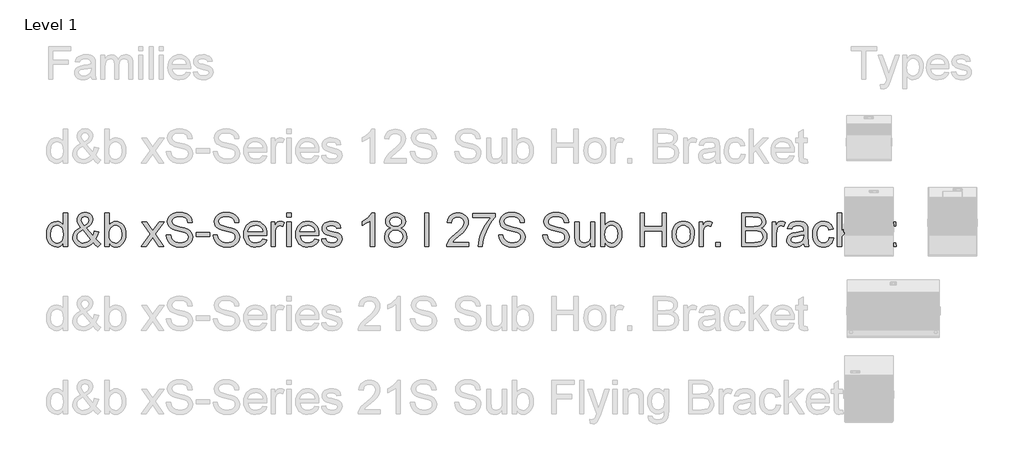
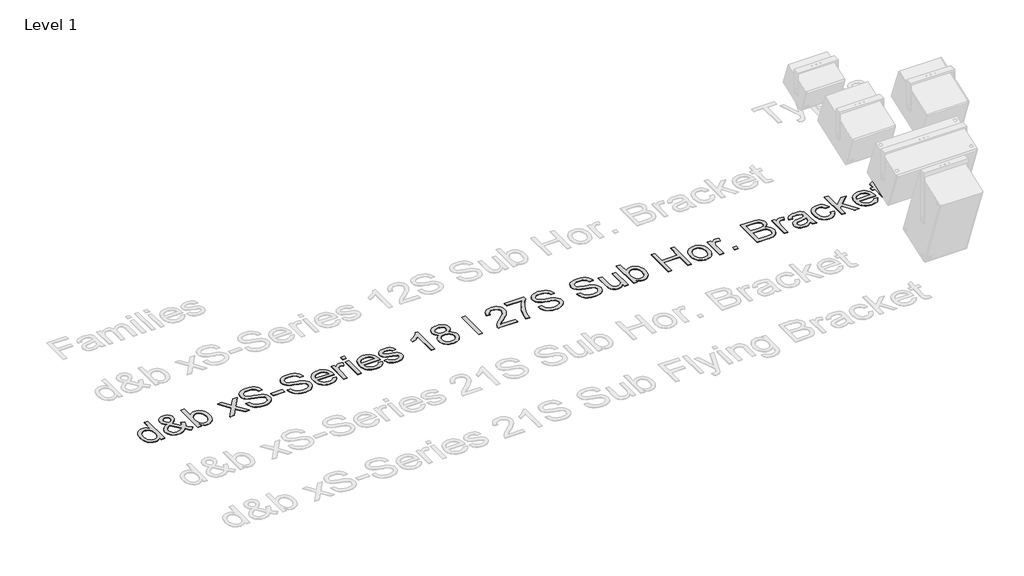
# One storey, part 15 of 55: 1 proxy.
"""IFC4 building model written with IfcOpenShell, lengths in millimetres."""

from ifc_helpers import new_model, si_unit, origin, origin_with_axes, place, context, project, spatial, polyline, outline, extrude, element, save

model = new_model("IFC4")

# Units and contexts
model_context = context("Model", 3, world=origin())
ifc_project = project(units=[si_unit("LENGTHUNIT", "METRE", prefix="MILLI")], contexts=[model_context])

# Site, building, storey
site = spatial("IfcSite", under=ifc_project)
building = spatial("IfcBuilding", under=site)
storey = spatial("IfcBuildingStorey", under=building, Name="Level 1", Elevation=0.0)

# Proxy
placement = place(None, origin())
element("IfcBuildingElementProxy", 1, Name="400mm Arial", ObjectType="400mm Arial", at=placement, inside=storey, context=model_context, shape_type="SweptSolid", body=[
    extrude(outline(polyline([(-20879.8211974, -21648.6945164), (-20879.8211974, -21601.3113154), (-20894.8491769, -21624.7883181), (-20913.0532043, -21641.5576057), (-20934.4332796, -21651.6191783), (-20958.9894028, -21654.9730358), (-20991.4611202, -21650.1169935), (-21021.1859854, -21635.5488665), (-21046.3491139, -21612.2864616), (-21065.1356211, -21581.3475858), (-21076.8342686, -21543.9830379), (-21080.7338177, -21501.4436165), (-21077.1408369, -21459.4314926), (-21066.3618945, -21421.4905962), (-21048.4092531, -21389.7791682), (-21023.2951755, -21366.4554497), (-20992.9203855, -21352.1080519), (-20959.1856065, -21347.325586), (-20934.6110892, -21350.7468885), (-20912.8815261, -21361.0107962), (-20894.4629008, -21376.7438829), (-20879.8211974, -21396.5727224), (-20879.8211974, -21246.8692758), (-20829.5930424, -21246.8692758), (-20829.5930424, -21648.6945164), (-20879.8211974, -21648.6945164)]), holes=[polyline([(-21030.5056627, -21501.2474128), (-21029.089317, -21525.6042665), (-21024.8402799, -21546.6808392), (-21017.7585515, -21564.4771307), (-21007.8441318, -21578.9931411), (-20983.1469871, -21598.3069458), (-20969.2717046, -21603.135397), (-20954.3786151, -21604.7448807), (-20939.415015, -21603.2089734), (-20925.6225058, -21598.6012514), (-20901.5507606, -21580.1703635), (-20892.0440767, -21566.2613584), (-20885.2535882, -21549.1088603), (-20879.8211974, -21505.0733855), (-20885.3516901, -21456.9298951), (-20892.2648059, -21438.3947739), (-20901.9431681, -21423.5507354), (-20913.6448812, -21412.1770504), (-20926.6280499, -21404.0529896), (-20940.8926743, -21399.1785532), (-20956.4387543, -21397.5537411), (-20971.6261493, -21399.1141738), (-20985.5014319, -21403.7954722), (-20998.064602, -21411.5976362), (-21009.3156597, -21422.5206658), (-21018.586286, -21436.8036843), (-21025.2081619, -21454.6858149), (-21030.5056627, -21501.2474128)])]), origin_with_axes(), (0.0, 0.0, 1.0), 5.0),
    extrude(outline(polyline([(-20523.809528, -21599.0549725), (-20549.3405384, -21623.5191252), (-20577.0788409, -21640.99352), (-20607.0734862, -21651.4781569), (-20639.3735254, -21654.9730358), (-20668.6814577, -21652.3855991), (-20694.8010793, -21644.623289), (-20717.7323904, -21631.6861055), (-20737.4753908, -21613.5740486), (-20750.308341, -21596.2038871), (-20759.4747341, -21577.8404442), (-20764.9745699, -21558.4837198), (-20766.8078485, -21538.1337141), (-20760.9094739, -21502.9396699), (-20743.2143499, -21471.3263438), (-20713.796053, -21443.3182613), (-20672.7281596, -21418.9399477), (-20694.6416638, -21390.5885086), (-20707.7995765, -21368.1231814), (-20714.3846642, -21348.9442668), (-20716.5796934, -21330.4520651), (-20714.8506481, -21312.8979626), (-20709.6635119, -21296.5333452), (-20701.018285, -21281.3582129), (-20688.9149674, -21267.3725657), (-20674.1935562, -21255.6555241), (-20657.6940487, -21247.2862088), (-20639.4164449, -21242.2646195), (-20619.3607448, -21240.5907564), (-20600.212487, -21242.1910431), (-20582.8913764, -21246.9919032), (-20567.397413, -21254.9933366), (-20553.7305969, -21266.1953433), (-20542.5715097, -21279.6414302), (-20534.6007332, -21294.3751041), (-20529.8182672, -21310.396365), (-20528.2241119, -21327.7052129), (-20532.9452642, -21355.68877), (-20547.108721, -21381.563137), (-20570.7144823, -21405.3283139), (-20603.7625482, -21426.9843007), (-20531.069066, -21517.5323224), (-20518.6837055, -21491.6579554), (-20509.3885538, -21461.9085647), (-20459.1603987, -21472.7978718), (-20474.6114425, -21519.3226815), (-20494.6732739, -21555.4977443), (-20466.1256311, -21588.8033276), (-20434.0463211, -21616.3209009), (-20471.7174374, -21654.9730358), (-20497.3465498, -21631.52669), (-20523.809528, -21599.0549725)]), holes=[polyline([(-20557.4584678, -21562.8553842), (-20647.1235727, -21450.9211558), (-20681.3733865, -21472.7733463), (-20702.305872, -21493.0068561), (-20713.0112381, -21512.3329235), (-20716.5796934, -21531.4627873), (-20711.6991256, -21555.1543878), (-20697.0574222, -21579.7289051), (-20686.2784798, -21590.6733944), (-20673.4639236, -21598.4908868), (-20658.6137537, -21603.1813823), (-20641.7279702, -21604.7448807), (-20619.0051256, -21601.8263502), (-20595.5710425, -21593.0707588), (-20574.1480476, -21579.6798541), (-20557.4584678, -21562.8553842)]), polyline([(-20629.1709314, -21395.2973981), (-20602.9041569, -21378.6323438), (-20587.8700461, -21364.1500559), (-20580.8067117, -21350.0601755), (-20578.452267, -21334.5723435), (-20581.5547385, -21317.0243723), (-20590.862153, -21303.0325938), (-20604.829406, -21293.8723321), (-20621.9113933, -21290.8189115), (-20639.3612626, -21293.8478066), (-20653.6473468, -21302.9344919), (-20663.1754905, -21316.3867102), (-20666.3515384, -21332.5122043), (-20662.0350563, -21350.9063041), (-20648.9875082, -21371.360543), (-20629.1709314, -21395.2973981)])]), origin_with_axes(), (0.0, 0.0, 1.0), 5.0),
    extrude(outline(polyline([(-20333.590011, -21648.6945164), (-20383.8181661, -21648.6945164), (-20383.8181661, -21246.8692758), (-20333.590011, -21246.8692758), (-20333.590011, -21395.8860093), (-20317.0721094, -21374.6408241), (-20298.4204923, -21359.4656918), (-20277.6351595, -21350.3606124), (-20254.7161112, -21347.325586), (-20228.8417442, -21350.0601755), (-20204.3898543, -21358.263944), (-20182.758393, -21371.4218567), (-20165.3453119, -21389.0188788), (-20151.6968898, -21410.883332), (-20141.3594058, -21436.8435381), (-20134.8478945, -21465.8203766), (-20132.6773907, -21496.734727), (-20134.9245365, -21532.4070178), (-20141.6659741, -21563.7873519), (-20152.9017034, -21590.8757295), (-20168.6317244, -21613.6721505), (-20187.5132678, -21631.7412878), (-20208.2035643, -21644.6478145), (-20230.702614, -21652.3917305), (-20255.0104168, -21654.9730358), (-20278.6836232, -21651.6437038), (-20299.671291, -21641.6557076), (-20317.9734203, -21625.0090473), (-20333.590011, -21601.7037229), (-20333.590011, -21648.6945164)]), holes=[polyline([(-20333.590011, -21499.0891717), (-20330.1564457, -21540.9786682), (-20319.8557498, -21569.3301073), (-20307.6849872, -21584.8240707), (-20293.5399244, -21595.8911874), (-20277.4205617, -21602.5314574), (-20259.3268989, -21604.7448807), (-20244.3050508, -21603.1139372), (-20230.3377977, -21598.2211067), (-20217.4251396, -21590.0663891), (-20205.5670767, -21578.6497845), (-20195.6526569, -21564.0019498), (-20188.5709285, -21546.1535416), (-20184.3218914, -21525.1045601), (-20182.9055458, -21500.8550053), (-20188.3379366, -21454.8942814), (-20195.1284251, -21437.1010555), (-20204.6351089, -21422.7659205), (-20216.0670419, -21411.735592), (-20228.6332778, -21403.8567859), (-20242.3338164, -21399.1295023), (-20257.1686579, -21397.5537411), (-20272.190506, -21399.1846846), (-20286.1577591, -21404.0775151), (-20299.0704171, -21412.2322327), (-20310.9284801, -21423.6488372), (-20320.8428999, -21438.1495192), (-20327.9246283, -21455.556469), (-20332.1736653, -21475.8696865), (-20333.590011, -21499.0891717)])]), origin_with_axes(), (0.0, 0.0, 1.0), 5.0),
    extrude(outline(polyline([(-19950.6003285, -21648.6945164), (-19843.2768878, -21500.2663941), (-19944.3218092, -21353.6041054), (-19884.0872638, -21353.6041054), (-19835.3306367, -21424.3355503), (-19812.4729021, -21457.5920827), (-19792.6563253, -21430.3197641), (-19737.1306695, -21353.6041054), (-19676.6999204, -21353.6041054), (-19782.8461387, -21500.364496), (-19680.623995, -21648.6945164), (-19740.9566422, -21648.6945164), (-19802.5646137, -21559.4218189), (-19813.7482263, -21543.0388074), (-19890.1695795, -21648.6945164), (-19950.6003285, -21648.6945164)])), origin_with_axes(), (0.0, 0.0, 1.0), 5.0),
    extrude(outline(polyline([(-19649.2313981, -21510.56709), (-19599.003243, -21510.56709), (-19593.2397584, -21538.4402825), (-19582.8164352, -21560.844296), (-19566.556051, -21578.6252591), (-19543.2813835, -21592.6293004), (-19514.8318425, -21601.7159856), (-19483.0468381, -21604.7448807), (-19455.063281, -21602.4517496), (-19430.5623402, -21595.5723563), (-19410.7089752, -21584.6830493), (-19396.6681457, -21570.3601769), (-19388.3172244, -21553.9158517), (-19385.533584, -21536.6621862), (-19387.6182486, -21519.849979), (-19393.8722425, -21505.3186402), (-19406.5764341, -21492.9210169), (-19428.0116917, -21482.5099565), (-19501.1466323, -21463.3310418), (-19549.1552327, -21450.639113), (-19579.8733793, -21438.5603208), (-19604.8770922, -21421.6622745), (-19622.5967416, -21401.1835101), (-19633.1549549, -21377.565486), (-19636.6743593, -21351.2496606), (-19632.3210891, -21321.8313637), (-19619.2612782, -21294.3996296), (-19597.8382834, -21271.1494875), (-19568.395461, -21254.2759667), (-19533.054264, -21244.012059), (-19493.9361452, -21240.5907564), (-19451.5561394, -21244.1714745), (-19414.4736342, -21254.9136288), (-19384.013005, -21272.59649), (-19361.4986269, -21296.999329), (-19347.249331, -21326.6015669), (-19341.5839483, -21359.8826247), (-19391.8121033, -21359.8826247), (-19401.0336787, -21329.9125049), (-19409.3968627, -21318.0544419), (-19420.2616443, -21308.2810436), (-19450.3053406, -21295.1844445), (-19491.9741079, -21290.8189115), (-19534.6238939, -21295.1353936), (-19550.9271976, -21300.5309962), (-19563.8827752, -21308.0848398), (-19580.805347, -21327.1411272), (-19586.4462043, -21349.7781326), (-19582.4485532, -21369.0796746), (-19570.4556002, -21384.6042948), (-19542.1041611, -21398.4857088), (-19488.4424407, -21412.6614283), (-19433.0639377, -21426.1259093), (-19399.5621507, -21437.8736077), (-19370.9286687, -21456.0960292), (-19350.9526764, -21478.5858819), (-19339.2172408, -21505.097911), (-19335.3054289, -21535.3868619), (-19339.805852, -21566.3502632), (-19353.3071212, -21595.4742545), (-19375.2574136, -21620.5392811), (-19405.1049061, -21639.3257883), (-19440.9979261, -21651.0612239), (-19481.0848008, -21654.9730358), (-19530.2951491, -21650.7546556), (-19570.7989567, -21638.099515), (-19603.0622077, -21616.958563), (-19627.5508858, -21587.2827487), (-19643.2717098, -21551.1322113), (-19649.2313981, -21510.56709)])), origin_with_axes(), (0.0, 0.0, 1.0), 5.0),
    extrude(outline(polyline([(-19291.3557932, -21529.4026481), (-19291.3557932, -21479.174493), (-19134.3928086, -21479.174493), (-19134.3928086, -21529.4026481), (-19291.3557932, -21529.4026481)])), origin_with_axes(), (0.0, 0.0, 1.0), 5.0),
    extrude(outline(polyline([(-19090.4431729, -21510.56709), (-19040.2150178, -21510.56709), (-19034.4515332, -21538.4402825), (-19024.02821, -21560.844296), (-19007.7678258, -21578.6252591), (-18984.4931583, -21592.6293004), (-18956.0436173, -21601.7159856), (-18924.2586129, -21604.7448807), (-18896.2750558, -21602.4517496), (-18871.774115, -21595.5723563), (-18851.9207499, -21584.6830493), (-18837.8799205, -21570.3601769), (-18829.5289992, -21553.9158517), (-18826.7453587, -21536.6621862), (-18828.8300234, -21519.849979), (-18835.0840173, -21505.3186402), (-18847.7882089, -21492.9210169), (-18869.2234665, -21482.5099565), (-18942.3584071, -21463.3310418), (-18990.3670075, -21450.639113), (-19021.0851541, -21438.5603208), (-19046.088867, -21421.6622745), (-19063.8085164, -21401.1835101), (-19074.3667297, -21377.565486), (-19077.8861341, -21351.2496606), (-19073.5328638, -21321.8313637), (-19060.473053, -21294.3996296), (-19039.0500582, -21271.1494875), (-19009.6072358, -21254.2759667), (-18974.2660388, -21244.012059), (-18935.14792, -21240.5907564), (-18892.7679141, -21244.1714745), (-18855.685409, -21254.9136288), (-18825.2247798, -21272.59649), (-18802.7104017, -21296.999329), (-18788.4611058, -21326.6015669), (-18782.7957231, -21359.8826247), (-18833.0238781, -21359.8826247), (-18842.2454535, -21329.9125049), (-18850.6086375, -21318.0544419), (-18861.4734191, -21308.2810436), (-18891.5171154, -21295.1844445), (-18933.1858827, -21290.8189115), (-18975.8356687, -21295.1353936), (-18992.1389724, -21300.5309962), (-19005.09455, -21308.0848398), (-19022.0171218, -21327.1411272), (-19027.657979, -21349.7781326), (-19023.660328, -21369.0796746), (-19011.667375, -21384.6042948), (-18983.3159359, -21398.4857088), (-18929.6542155, -21412.6614283), (-18874.2757125, -21426.1259093), (-18840.7739255, -21437.8736077), (-18812.1404435, -21456.0960292), (-18792.1644512, -21478.5858819), (-18780.4290156, -21505.097911), (-18776.5172037, -21535.3868619), (-18781.0176267, -21566.3502632), (-18794.518896, -21595.4742545), (-18816.4691883, -21620.5392811), (-18846.3166809, -21639.3257883), (-18882.2097009, -21651.0612239), (-18922.2965756, -21654.9730358), (-18971.5069238, -21650.7546556), (-19012.0107315, -21638.099515), (-19044.2739825, -21616.958563), (-19068.7626606, -21587.2827487), (-19084.4834846, -21551.1322113), (-19090.4431729, -21510.56709)])), origin_with_axes(), (0.0, 0.0, 1.0), 5.0),
    extrude(outline(polyline([(-18500.850962, -21560.795245), (-18451.6038255, -21567.0737644), (-18459.1546035, -21586.7983707), (-18469.3480004, -21604.180795), (-18482.1840164, -21619.2210372), (-18497.6626513, -21631.9190974), (-18515.6244897, -21642.0051955), (-18535.9101161, -21649.2095512), (-18583.4527326, -21654.9730358), (-18614.618469, -21652.4867667), (-18642.3874282, -21645.0279592), (-18666.7596104, -21632.5966135), (-18687.7350155, -21615.1927294), (-18704.602405, -21593.300685), (-18716.6505403, -21567.4048582), (-18723.8794215, -21537.5052491), (-18726.2890486, -21503.6018575), (-18723.8548961, -21468.5488348), (-18716.5524385, -21437.6528785), (-18704.3816758, -21410.9139888), (-18687.342608, -21388.3321657), (-18666.4223852, -21370.3917871), (-18642.6081574, -21357.5772309), (-18615.8999246, -21349.8884972), (-18586.2976867, -21347.325586), (-18557.6488763, -21349.8823658), (-18531.7407868, -21357.5527054), (-18508.5734182, -21370.3366048), (-18488.1467704, -21388.2340638), (-18471.472519, -21410.766836), (-18459.5623394, -21437.4566748), (-18452.4162316, -21468.3035801), (-18450.0341957, -21503.3075519), (-18450.3285013, -21516.8456094), (-18676.0608935, -21516.8456094), (-18673.1515601, -21536.8890467), (-18667.3666157, -21554.4431493), (-18658.7060604, -21569.507917), (-18647.1698942, -21582.0833498), (-18633.3957791, -21591.9977696), (-18618.0213774, -21599.079498), (-18582.4717139, -21604.7448807), (-18555.7389556, -21602.1206558), (-18533.2245775, -21594.2479811), (-18514.9285796, -21580.6363473), (-18500.850962, -21560.795245)]), holes=[polyline([(-18676.0608935, -21466.6174543), (-18500.2623508, -21466.6174543), (-18507.0559049, -21440.0808997), (-18520.3732332, -21421.0981887), (-18534.0707061, -21410.7974929), (-18549.65664, -21403.439853), (-18567.1310348, -21399.025269), (-18586.4938904, -21397.5537411), (-18620.3512967, -21402.2503679), (-18648.3471166, -21416.3402483), (-18667.8080741, -21438.3028034), (-18676.0608935, -21466.6174543)])]), origin_with_axes(), (0.0, 0.0, 1.0), 5.0),
    extrude(outline(polyline([(-18399.8060406, -21648.6945164), (-18399.8060406, -21353.6041054), (-18355.8564049, -21353.6041054), (-18355.8564049, -21397.2594355), (-18339.6205462, -21371.9491542), (-18324.6600117, -21357.0376707), (-18309.6504263, -21349.7536071), (-18293.2674148, -21347.325586), (-18268.2514391, -21351.2006097), (-18242.843056, -21362.8256807), (-18259.618475, -21407.8544369), (-18277.2768108, -21400.128915), (-18294.9351465, -21397.5537411), (-18309.9324692, -21400.0308132), (-18323.3356365, -21407.4620295), (-18334.1636299, -21419.2833042), (-18341.4354307, -21434.9305518), (-18347.5422718, -21462.9876853), (-18349.5778855, -21493.5954673), (-18349.5778855, -21648.6945164), (-18399.8060406, -21648.6945164)])), origin_with_axes(), (0.0, 0.0, 1.0), 5.0),
    extrude(outline(polyline([(-18211.4504591, -21297.0974309), (-18211.4504591, -21246.8692758), (-18161.222304, -21246.8692758), (-18161.222304, -21297.0974309), (-18211.4504591, -21297.0974309)])), origin_with_axes(), (0.0, 0.0, 1.0), 5.0),
    extrude(outline(polyline([(-18211.4504591, -21648.6945164), (-18211.4504591, -21353.6041054), (-18161.222304, -21353.6041054), (-18161.222304, -21648.6945164), (-18211.4504591, -21648.6945164)])), origin_with_axes(), (0.0, 0.0, 1.0), 5.0),
    extrude(outline(polyline([(-17879.2775429, -21560.795245), (-17830.0304065, -21567.0737644), (-17837.5811844, -21586.7983707), (-17847.7745814, -21604.180795), (-17860.6105973, -21619.2210372), (-17876.0892323, -21631.9190974), (-17894.0510707, -21642.0051955), (-17914.336697, -21649.2095512), (-17961.8793136, -21654.9730358), (-17993.0450499, -21652.4867667), (-18020.8140092, -21645.0279592), (-18045.1861914, -21632.5966135), (-18066.1615965, -21615.1927294), (-18083.0289859, -21593.300685), (-18095.0771213, -21567.4048582), (-18102.3060025, -21537.5052491), (-18104.7156295, -21503.6018575), (-18102.281477, -21468.5488348), (-18094.9790194, -21437.6528785), (-18082.8082567, -21410.9139888), (-18065.769189, -21388.3321657), (-18044.8489662, -21370.3917871), (-18021.0347384, -21357.5772309), (-17994.3265055, -21349.8884972), (-17964.7242676, -21347.325586), (-17936.0754573, -21349.8823658), (-17910.1673678, -21357.5527054), (-17886.9999991, -21370.3366048), (-17866.5733513, -21388.2340638), (-17849.8990999, -21410.766836), (-17837.9889203, -21437.4566748), (-17830.8428126, -21468.3035801), (-17828.4607766, -21503.3075519), (-17828.7550822, -21516.8456094), (-18054.4874745, -21516.8456094), (-18051.578141, -21536.8890467), (-18045.7931967, -21554.4431493), (-18037.1326413, -21569.507917), (-18025.5964751, -21582.0833498), (-18011.8223601, -21591.9977696), (-17996.4479584, -21599.079498), (-17960.8982949, -21604.7448807), (-17934.1655366, -21602.1206558), (-17911.6511585, -21594.2479811), (-17893.3551606, -21580.6363473), (-17879.2775429, -21560.795245)]), holes=[polyline([(-18054.4874745, -21466.6174543), (-17878.6889317, -21466.6174543), (-17885.4824859, -21440.0808997), (-17898.7998141, -21421.0981887), (-17912.4972871, -21410.7974929), (-17928.0832209, -21403.439853), (-17945.5576157, -21399.025269), (-17964.9204714, -21397.5537411), (-17998.7778777, -21402.2503679), (-18026.7736975, -21416.3402483), (-18046.234655, -21438.3028034), (-18054.4874745, -21466.6174543)])]), origin_with_axes(), (0.0, 0.0, 1.0), 5.0),
    extrude(outline(polyline([(-17797.0681797, -21560.795245), (-17746.8400246, -21554.5167257), (-17738.918299, -21576.0010342), (-17723.5898825, -21591.7954345), (-17700.7566734, -21601.5075192), (-17670.3205696, -21604.7448807), (-17640.2523479, -21601.7772993), (-17619.1113959, -21592.874555), (-17606.6034081, -21579.9741597), (-17602.4340788, -21565.0136253), (-17606.6279335, -21552.2113318), (-17619.2094978, -21542.4501962), (-17670.9091808, -21528.1273239), (-17746.545719, -21503.5528066), (-17765.6878455, -21491.2042343), (-17779.5569967, -21474.858011), (-17787.9814944, -21455.556469), (-17790.7896603, -21434.3419406), (-17788.5333174, -21414.880983), (-17781.7642887, -21396.9160789), (-17771.0957109, -21381.1584668), (-17757.1407205, -21368.3193852), (-17725.2085633, -21353.4569526), (-17704.3251287, -21348.8584276), (-17681.9946916, -21347.325586), (-17649.302245, -21349.7903953), (-17620.8772295, -21357.1848234), (-17598.0194949, -21368.785369), (-17582.0288908, -21383.8685308), (-17571.4338893, -21403.5502176), (-17564.7629625, -21428.946338), (-17614.9911176, -21435.2248574), (-17621.3309506, -21419.4181943), (-17633.8757267, -21407.5110804), (-17652.748073, -21400.0430759), (-17678.070617, -21397.5537411), (-17706.9125654, -21399.9327113), (-17726.140531, -21407.069622), (-17736.9562617, -21417.3703179), (-17740.5615053, -21429.2406436), (-17734.5772915, -21443.8578215), (-17715.8398352, -21454.9433323), (-17672.5769125, -21465.6364356), (-17598.8533607, -21489.2789852), (-17579.3801404, -21500.5852252), (-17564.6158097, -21516.0607944), (-17555.3083952, -21535.7547439), (-17552.2059237, -21559.7161245), (-17555.8479555, -21584.4868455), (-17566.7740507, -21607.7860386), (-17584.5672766, -21627.7865564), (-17608.8107, -21642.6612517), (-17638.0941069, -21651.8950898), (-17671.0072827, -21654.9730358), (-17698.040478, -21653.4892451), (-17721.6523707, -21649.037873), (-17741.8429609, -21641.6189194), (-17758.6122485, -21631.2323844), (-17772.3097214, -21617.9273189), (-17783.2848676, -21601.7527738), (-17791.5376871, -21582.7087492), (-17797.0681797, -21560.795245)])), origin_with_axes(), (0.0, 0.0, 1.0), 5.0),
    extrude(outline(polyline([(-17162.9377219, -21648.6945164), (-17213.165877, -21648.6945164), (-17213.165877, -21335.5533621), (-17234.1351507, -21352.5127221), (-17260.7452817, -21369.4475566), (-17313.6221871, -21394.8068888), (-17313.6221871, -21347.325586), (-17274.1729745, -21325.8658029), (-17239.9967371, -21300.3347925), (-17213.0555124, -21273.1851012), (-17195.3113375, -21246.8692758), (-17162.9377219, -21246.8692758), (-17162.9377219, -21648.6945164)])), origin_with_axes(), (0.0, 0.0, 1.0), 5.0),
    extrude(outline(polyline([(-16970.461862, -21427.3767081), (-16997.3540359, -21414.1329563), (-17016.2263822, -21396.1803149), (-17027.3732067, -21373.886666), (-17031.0888148, -21347.6198916), (-17029.0654638, -21327.1349958), (-17022.9954109, -21308.35462), (-17012.8786561, -21291.278764), (-16998.7151992, -21275.907428), (-16981.1856222, -21263.2032364), (-16960.9705065, -21254.1288139), (-16938.0698523, -21248.6841603), (-16912.4836596, -21246.8692758), (-16886.7748395, -21248.7270799), (-16863.702507, -21254.3004921), (-16843.2666622, -21263.5895125), (-16825.467305, -21276.594141), (-16811.0463308, -21292.265914), (-16800.7456349, -21309.5563678), (-16794.5652174, -21328.4655024), (-16792.5050782, -21348.9933177), (-16796.1716354, -21374.4139636), (-16807.1713071, -21396.3274677), (-16825.6267205, -21414.1697445), (-16851.660503, -21427.3767081), (-16820.7461527, -21443.3059985), (-16798.2440373, -21466.7646071), (-16784.5220389, -21496.6243624), (-16779.9480394, -21531.7570929), (-16782.2166451, -21556.8098568), (-16789.022462, -21579.777956), (-16800.3654902, -21600.6613906), (-16816.2457296, -21619.4601605), (-16835.8293145, -21634.9970435), (-16858.282379, -21646.094817), (-16883.604923, -21652.7534811), (-16911.7969465, -21654.9730358), (-16939.9889701, -21652.7442841), (-16965.3115141, -21646.0580288), (-16987.7645785, -21634.91427), (-17007.3481634, -21619.3130077), (-17023.2284029, -21600.3824134), (-17034.571431, -21579.2506585), (-17041.377248, -21555.9177429), (-17043.6458536, -21530.3836668), (-17038.8879131, -21493.8897729), (-17024.6140917, -21463.8706021), (-17001.5601533, -21441.3562239), (-16970.461862, -21427.3767081)]), holes=[polyline([(-16993.4176985, -21528.6178332), (-16991.3207711, -21547.8335361), (-16985.029989, -21566.4361023), (-16973.4171807, -21582.6596983), (-16955.3541747, -21594.7384905), (-16933.7227134, -21602.2432832), (-16911.4045391, -21604.7448807), (-16877.216039, -21599.4841682), (-16863.3223623, -21592.9082775), (-16851.5624012, -21583.7020306), (-16835.5227462, -21559.8019637), (-16830.1761945, -21530.187463), (-16835.6944245, -21500.0701904), (-16852.2491142, -21475.6428259), (-16864.3279064, -21466.2005214), (-16878.4913632, -21459.4560181), (-16913.0722708, -21454.0604155), (-16946.7825243, -21459.3824417), (-16960.5198511, -21466.0349745), (-16972.1786447, -21475.3485203), (-16988.1079351, -21499.3099009), (-16993.4176985, -21528.6178332)]), polyline([(-16980.8606597, -21349.0914196), (-16976.4092876, -21371.0171865), (-16963.0551712, -21388.5283694), (-16941.1907179, -21400.0062877), (-16911.2083353, -21403.8322604), (-16881.9249285, -21400.0308132), (-16860.3915691, -21388.6264713), (-16847.1478172, -21371.7038995), (-16842.7332333, -21351.3477625), (-16847.29497, -21330.2190732), (-16860.9801803, -21312.7446784), (-16882.8078453, -21301.0092428), (-16911.7969465, -21297.0974309), (-16940.9699887, -21300.9234037), (-16962.7608656, -21312.4013219), (-16976.3357112, -21329.2257918), (-16980.8606597, -21349.0914196)])]), origin_with_axes(), (0.0, 0.0, 1.0), 5.0),
    extrude(outline(polyline([(-16566.4783804, -21648.6945164), (-16566.4783804, -21246.8692758), (-16516.2502253, -21246.8692758), (-16516.2502253, -21648.6945164), (-16566.4783804, -21648.6945164)])), origin_with_axes(), (0.0, 0.0, 1.0), 5.0),
    extrude(outline(polyline([(-16039.0827521, -21598.4663614), (-16039.0827521, -21648.6945164), (-16302.7805662, -21648.6945164), (-16301.6769203, -21631.0116552), (-16297.3849636, -21614.0645579), (-16284.9873404, -21587.0007058), (-16266.8262326, -21560.7461941), (-16240.5717209, -21533.2654091), (-16203.8938859, -21502.522737), (-16149.704868, -21454.3792466), (-16117.2208879, -21418.8418458), (-16100.9972919, -21389.9998974), (-16095.5894266, -21361.9427639), (-16100.7029863, -21336.7918982), (-16116.0436655, -21315.8839381), (-16139.6249014, -21301.7940577), (-16169.4601312, -21297.0974309), (-16200.7914144, -21301.6836931), (-16225.1329398, -21315.4424797), (-16240.841501, -21337.2946702), (-16246.2738918, -21366.1611441), (-16296.5020469, -21359.8826247), (-16292.1824991, -21333.9530755), (-16284.3251528, -21311.2976759), (-16272.930008, -21291.9164261), (-16257.9970647, -21275.8093261), (-16239.8696794, -21263.1480541), (-16218.8912086, -21254.1042884), (-16195.0616524, -21248.678029), (-16168.3810107, -21246.8692758), (-16141.4612457, -21248.8803641), (-16117.5029307, -21254.9136288), (-16096.5060659, -21264.96907), (-16078.470651, -21279.0466877), (-16063.9852975, -21296.1041495), (-16053.6386164, -21315.0991232), (-16047.4306077, -21336.0316087), (-16045.3612715, -21358.9016061), (-16047.5930889, -21382.9243004), (-16054.2885412, -21406.5300617), (-16066.1711297, -21430.5404933), (-16083.9643555, -21455.7771982), (-16112.3280573, -21485.9067336), (-16155.9220738, -21524.5956567), (-16213.7040725, -21572.9108254), (-16236.3656034, -21598.4663614), (-16039.0827521, -21598.4663614)])), origin_with_axes(), (0.0, 0.0, 1.0), 5.0),
    extrude(outline(polyline([(-15988.854597, -21303.3759503), (-15988.854597, -21253.1477952), (-15725.1567829, -21253.1477952), (-15725.1567829, -21293.7619675), (-15762.7420601, -21341.3291095), (-15799.9594552, -21401.8211722), (-15832.7867919, -21469.7199258), (-15857.2018937, -21539.5071403), (-15869.1703213, -21591.7218581), (-15875.8412481, -21648.6945164), (-15926.0694032, -21648.6945164), (-15920.6370124, -21596.921257), (-15906.1056736, -21535.3868619), (-15882.8677942, -21470.1613842), (-15851.3157818, -21407.3148767), (-15814.4785313, -21350.5016339), (-15775.384938, -21303.3759503), (-15988.854597, -21303.3759503)])), origin_with_axes(), (0.0, 0.0, 1.0), 5.0),
    extrude(outline(polyline([(-15681.2071472, -21510.56709), (-15630.9789921, -21510.56709), (-15625.2155075, -21538.4402825), (-15614.7921843, -21560.844296), (-15598.5318001, -21578.6252591), (-15575.2571326, -21592.6293004), (-15546.8075916, -21601.7159856), (-15515.0225872, -21604.7448807), (-15487.0390301, -21602.4517496), (-15462.5380893, -21595.5723563), (-15442.6847242, -21584.6830493), (-15428.6438948, -21570.3601769), (-15420.2929735, -21553.9158517), (-15417.509333, -21536.6621862), (-15419.5939977, -21519.849979), (-15425.8479916, -21505.3186402), (-15438.5521832, -21492.9210169), (-15459.9874408, -21482.5099565), (-15533.1223814, -21463.3310418), (-15581.1309818, -21450.639113), (-15611.8491284, -21438.5603208), (-15636.8528413, -21421.6622745), (-15654.5724907, -21401.1835101), (-15665.130704, -21377.565486), (-15668.6501084, -21351.2496606), (-15664.2968381, -21321.8313637), (-15651.2370273, -21294.3996296), (-15629.8140325, -21271.1494875), (-15600.3712101, -21254.2759667), (-15565.0300131, -21244.012059), (-15525.9118943, -21240.5907564), (-15483.5318884, -21244.1714745), (-15446.4493833, -21254.9136288), (-15415.9887541, -21272.59649), (-15393.474376, -21296.999329), (-15379.2250801, -21326.6015669), (-15373.5596974, -21359.8826247), (-15423.7878524, -21359.8826247), (-15433.0094278, -21329.9125049), (-15441.3726118, -21318.0544419), (-15452.2373934, -21308.2810436), (-15482.2810897, -21295.1844445), (-15523.949857, -21290.8189115), (-15566.599643, -21295.1353936), (-15582.9029467, -21300.5309962), (-15595.8585243, -21308.0848398), (-15612.7810961, -21327.1411272), (-15618.4219533, -21349.7781326), (-15614.4243023, -21369.0796746), (-15602.4313493, -21384.6042948), (-15574.0799102, -21398.4857088), (-15520.4181898, -21412.6614283), (-15465.0396868, -21426.1259093), (-15431.5378998, -21437.8736077), (-15402.9044178, -21456.0960292), (-15382.9284255, -21478.5858819), (-15371.1929899, -21505.097911), (-15367.281178, -21535.3868619), (-15371.781601, -21566.3502632), (-15385.2828703, -21595.4742545), (-15407.2331626, -21620.5392811), (-15437.0806552, -21639.3257883), (-15472.9736752, -21651.0612239), (-15513.0605499, -21654.9730358), (-15562.2708981, -21650.7546556), (-15602.7747058, -21638.099515), (-15635.0379568, -21616.958563), (-15659.5266349, -21587.2827487), (-15675.2474589, -21551.1322113), (-15681.2071472, -21510.56709)])), origin_with_axes(), (0.0, 0.0, 1.0), 5.0),
    extrude(outline(polyline([(-15153.8115189, -21510.56709), (-15103.5833638, -21510.56709), (-15097.8198792, -21538.4402825), (-15087.396556, -21560.844296), (-15071.1361719, -21578.6252591), (-15047.8615043, -21592.6293004), (-15019.4119633, -21601.7159856), (-14987.6269589, -21604.7448807), (-14959.6434018, -21602.4517496), (-14935.142461, -21595.5723563), (-14915.289096, -21584.6830493), (-14901.2482665, -21570.3601769), (-14892.8973452, -21553.9158517), (-14890.1137048, -21536.6621862), (-14892.1983694, -21519.849979), (-14898.4523633, -21505.3186402), (-14911.1565549, -21492.9210169), (-14932.5918125, -21482.5099565), (-15005.7267531, -21463.3310418), (-15053.7353535, -21450.639113), (-15084.4535001, -21438.5603208), (-15109.457213, -21421.6622745), (-15127.1768625, -21401.1835101), (-15137.7350757, -21377.565486), (-15141.2544801, -21351.2496606), (-15136.9012099, -21321.8313637), (-15123.841399, -21294.3996296), (-15102.4184042, -21271.1494875), (-15072.9755818, -21254.2759667), (-15037.6343848, -21244.012059), (-14998.516266, -21240.5907564), (-14956.1362602, -21244.1714745), (-14919.053755, -21254.9136288), (-14888.5931258, -21272.59649), (-14866.0787477, -21296.999329), (-14851.8294518, -21326.6015669), (-14846.1640691, -21359.8826247), (-14896.3922241, -21359.8826247), (-14905.6137995, -21329.9125049), (-14913.9769835, -21318.0544419), (-14924.8417651, -21308.2810436), (-14954.8854614, -21295.1844445), (-14996.5542287, -21290.8189115), (-15039.2040147, -21295.1353936), (-15055.5073184, -21300.5309962), (-15068.462896, -21308.0848398), (-15085.3854678, -21327.1411272), (-15091.0263251, -21349.7781326), (-15087.028674, -21369.0796746), (-15075.035721, -21384.6042948), (-15046.6842819, -21398.4857088), (-14993.0225615, -21412.6614283), (-14937.6440585, -21426.1259093), (-14904.1422715, -21437.8736077), (-14875.5087896, -21456.0960292), (-14855.5327972, -21478.5858819), (-14843.7973616, -21505.097911), (-14839.8855497, -21535.3868619), (-14844.3859728, -21566.3502632), (-14857.887242, -21595.4742545), (-14879.8375344, -21620.5392811), (-14909.6850269, -21639.3257883), (-14945.5780469, -21651.0612239), (-14985.6649216, -21654.9730358), (-15034.8752699, -21650.7546556), (-15075.3790775, -21638.099515), (-15107.6423285, -21616.958563), (-15132.1310067, -21587.2827487), (-15147.8518306, -21551.1322113), (-15153.8115189, -21510.56709)])), origin_with_axes(), (0.0, 0.0, 1.0), 5.0),
    extrude(outline(polyline([(-14582.4662549, -21648.6945164), (-14582.4662549, -21597.975852), (-14600.6396255, -21622.9121199), (-14621.8051029, -21640.7237399), (-14645.9626873, -21651.4107118), (-14673.1123785, -21654.9730358), (-14697.5765312, -21652.4714382), (-14720.3484267, -21644.9666455), (-14739.453765, -21633.684931), (-14752.918246, -21619.852568), (-14761.9804058, -21603.0526236), (-14767.8787805, -21582.8681648), (-14770.8218365, -21536.1716768), (-14770.8218365, -21353.6041054), (-14720.5936814, -21353.6041054), (-14720.5936814, -21512.5291273), (-14717.5525236, -21563.738301), (-14710.2316719, -21580.8202883), (-14697.6868958, -21593.8065227), (-14680.7520613, -21602.0102912), (-14660.2610342, -21604.7448807), (-14638.5927847, -21601.9489776), (-14618.3224867, -21593.5612681), (-14601.6083814, -21580.3543045), (-14590.6087098, -21563.1006389), (-14584.5018686, -21539.4703521), (-14582.4662549, -21507.1335247), (-14582.4662549, -21353.6041054), (-14532.2380999, -21353.6041054), (-14532.2380999, -21648.6945164), (-14582.4662549, -21648.6945164)])), origin_with_axes(), (0.0, 0.0, 1.0), 5.0),
    extrude(outline(polyline([(-14412.9462315, -21648.6945164), (-14463.1743866, -21648.6945164), (-14463.1743866, -21246.8692758), (-14412.9462315, -21246.8692758), (-14412.9462315, -21395.8860093), (-14396.42833, -21374.6408241), (-14377.7767128, -21359.4656918), (-14356.9913801, -21350.3606124), (-14334.0723318, -21347.325586), (-14308.1979648, -21350.0601755), (-14283.7460748, -21358.263944), (-14262.1146135, -21371.4218567), (-14244.7015324, -21389.0188788), (-14231.0531104, -21410.883332), (-14220.7156263, -21436.8435381), (-14214.204115, -21465.8203766), (-14212.0336112, -21496.734727), (-14214.2807571, -21532.4070178), (-14221.0221947, -21563.7873519), (-14232.2579239, -21590.8757295), (-14247.9879449, -21613.6721505), (-14266.8694883, -21631.7412878), (-14287.5597849, -21644.6478145), (-14310.0588345, -21652.3917305), (-14334.3666374, -21654.9730358), (-14358.0398438, -21651.6437038), (-14379.0275116, -21641.6557076), (-14397.3296409, -21625.0090473), (-14412.9462315, -21601.7037229), (-14412.9462315, -21648.6945164)]), holes=[polyline([(-14412.9462315, -21499.0891717), (-14409.5126663, -21540.9786682), (-14399.2119704, -21569.3301073), (-14387.0412077, -21584.8240707), (-14372.896145, -21595.8911874), (-14356.7767823, -21602.5314574), (-14338.6831195, -21604.7448807), (-14323.6612713, -21603.1139372), (-14309.6940182, -21598.2211067), (-14296.7813602, -21590.0663891), (-14284.9232972, -21578.6497845), (-14275.0088775, -21564.0019498), (-14267.927149, -21546.1535416), (-14263.678112, -21525.1045601), (-14262.2617663, -21500.8550053), (-14267.6941571, -21454.8942814), (-14274.4846456, -21437.1010555), (-14283.9913295, -21422.7659205), (-14295.4232625, -21411.735592), (-14307.9894983, -21403.8567859), (-14321.690037, -21399.1295023), (-14336.5248784, -21397.5537411), (-14351.5467266, -21399.1846846), (-14365.5139796, -21404.0775151), (-14378.4266377, -21412.2322327), (-14390.2847006, -21423.6488372), (-14400.1991204, -21438.1495192), (-14407.2808488, -21455.556469), (-14411.5298859, -21475.8696865), (-14412.9462315, -21499.0891717)])]), origin_with_axes(), (0.0, 0.0, 1.0), 5.0),
    extrude(outline(polyline([(-13992.2854328, -21648.6945164), (-13992.2854328, -21246.8692758), (-13942.0572777, -21246.8692758), (-13942.0572777, -21410.1107798), (-13728.5876187, -21410.1107798), (-13728.5876187, -21246.8692758), (-13678.3594636, -21246.8692758), (-13678.3594636, -21648.6945164), (-13728.5876187, -21648.6945164), (-13728.5876187, -21460.3389349), (-13942.0572777, -21460.3389349), (-13942.0572777, -21648.6945164), (-13992.2854328, -21648.6945164)])), origin_with_axes(), (0.0, 0.0, 1.0), 5.0),
    extrude(outline(polyline([(-13609.2957504, -21501.1493109), (-13606.579555, -21462.932503), (-13598.4309688, -21430.000933), (-13584.8499918, -21402.3546011), (-13565.836624, -21379.9935072), (-13546.6944975, -21365.7012916), (-13525.5658082, -21355.4925663), (-13502.4505562, -21349.3673311), (-13477.3487414, -21347.325586), (-13449.6380301, -21349.8118551), (-13424.5822006, -21357.2706626), (-13402.1812527, -21369.7020083), (-13382.4351867, -21387.1058924), (-13366.3188896, -21408.8937036), (-13354.8072488, -21434.4768306), (-13347.9002644, -21463.8552736), (-13345.5979362, -21497.0290325), (-13349.6691636, -21547.7722224), (-13361.8828459, -21586.3998319), (-13381.8833637, -21615.3276195), (-13409.3150978, -21636.9713435), (-13441.8971798, -21650.4726127), (-13477.3487414, -21654.9730358), (-13505.4641229, -21652.4959637), (-13530.7529444, -21645.0647474), (-13553.2152059, -21632.6793869), (-13572.8509074, -21615.3398822), (-13588.7955262, -21593.3405389), (-13600.1845396, -21566.9756626), (-13607.0179477, -21536.2452532), (-13609.2957504, -21501.1493109)]), holes=[polyline([(-13559.0675953, -21501.051209), (-13557.6144614, -21525.4141942), (-13553.2550598, -21546.5091609), (-13545.9893903, -21564.3361092), (-13535.8174532, -21578.8950392), (-13523.4443554, -21590.2043449), (-13509.5752042, -21598.2824204), (-13494.2099995, -21603.1292656), (-13477.3487414, -21604.7448807), (-13460.5733224, -21603.1200686), (-13445.2694314, -21598.2456322), (-13431.4370684, -21590.1215714), (-13419.0762334, -21578.7478864), (-13408.9042962, -21564.0448693), (-13401.6386268, -21545.9328124), (-13397.2792252, -21524.4117157), (-13395.8260913, -21499.4815792), (-13397.2884222, -21475.8911462), (-13401.675415, -21455.3480025), (-13408.9870697, -21437.8521479), (-13419.2233862, -21423.4035826), (-13431.6302065, -21412.0942769), (-13445.4533724, -21404.0162014), (-13460.6928841, -21399.1693561), (-13477.3487414, -21397.5537411), (-13494.2099995, -21399.1632248), (-13509.5752042, -21403.991676), (-13523.4443554, -21412.0390946), (-13535.8174532, -21423.3054807), (-13545.9893903, -21437.8214911), (-13553.2550598, -21455.6177826), (-13557.6144614, -21476.6943553), (-13559.0675953, -21501.051209)])]), origin_with_axes(), (0.0, 0.0, 1.0), 5.0),
    extrude(outline(polyline([(-13289.0912617, -21648.6945164), (-13289.0912617, -21353.6041054), (-13245.1416261, -21353.6041054), (-13245.1416261, -21397.2594355), (-13228.9057673, -21371.9491542), (-13213.9452329, -21357.0376707), (-13198.9356475, -21349.7536071), (-13182.5526359, -21347.325586), (-13157.5366603, -21351.2006097), (-13132.1282771, -21362.8256807), (-13148.9036961, -21407.8544369), (-13166.5620319, -21400.128915), (-13184.2203677, -21397.5537411), (-13199.2176903, -21400.0308132), (-13212.6208577, -21407.4620295), (-13223.4488511, -21419.2833042), (-13230.7206518, -21434.9305518), (-13236.827493, -21462.9876853), (-13238.8631067, -21493.5954673), (-13238.8631067, -21648.6945164), (-13289.0912617, -21648.6945164)])), origin_with_axes(), (0.0, 0.0, 1.0), 5.0),
    extrude(outline(polyline([(-13088.1786414, -21648.6945164), (-13088.1786414, -21598.4663614), (-13037.9504864, -21598.4663614), (-13037.9504864, -21648.6945164), (-13088.1786414, -21648.6945164)])), origin_with_axes(), (0.0, 0.0, 1.0), 5.0),
    extrude(outline(polyline([(-12780.5311916, -21648.6945164), (-12780.5311916, -21246.8692758), (-12627.197976, -21246.8692758), (-12585.0264366, -21249.8245945), (-12552.1009981, -21258.6905506), (-12526.8642932, -21273.6878733), (-12507.7589549, -21295.0372917), (-12495.7292137, -21320.1513693), (-12491.7192999, -21346.4426692), (-12495.0915516, -21370.6370417), (-12505.2083064, -21393.3844118), (-12522.1431409, -21413.2868277), (-12545.9696315, -21428.946338), (-12517.5078278, -21443.8087706), (-12496.4772404, -21466.4212506), (-12483.491006, -21495.2877244), (-12479.1622612, -21528.9121388), (-12482.1175799, -21556.9324841), (-12490.9835359, -21582.9172157), (-12504.215025, -21605.0146609), (-12520.2669428, -21621.3731469), (-12539.924104, -21633.2189472), (-12563.9713238, -21641.7783349), (-12593.1934169, -21646.965471), (-12628.3751984, -21648.6945164), (-12780.5311916, -21648.6945164)]), holes=[polyline([(-12730.3030365, -21598.4663614), (-12627.2960779, -21598.4663614), (-12590.017369, -21596.504324), (-12558.4776193, -21585.5659661), (-12546.9015992, -21576.1359242), (-12537.581922, -21563.2477917), (-12531.4382927, -21547.4779168), (-12529.3904162, -21529.4026481), (-12531.7939119, -21508.4088489), (-12539.0043991, -21490.3581057), (-12551.598226, -21476.2436998), (-12570.1517413, -21467.0589127), (-12596.4307785, -21462.0189293), (-12632.2011712, -21460.3389349), (-12730.3030365, -21460.3389349), (-12730.3030365, -21598.4663614)]), polyline([(-12730.3030365, -21410.1107798), (-12638.5777924, -21410.1107798), (-12585.0141739, -21405.7942977), (-12566.2644549, -21398.3508187), (-12552.7877111, -21387.2039943), (-12544.657519, -21372.5255026), (-12541.947455, -21354.4870222), (-12544.473578, -21336.9758392), (-12552.0519471, -21321.7209991), (-12564.3392058, -21309.8138852), (-12580.9919974, -21302.3458807), (-12606.5475334, -21298.4095434), (-12645.5430249, -21297.0974309), (-12730.3030365, -21297.0974309), (-12730.3030365, -21410.1107798)])]), origin_with_axes(), (0.0, 0.0, 1.0), 5.0),
    extrude(outline(polyline([(-12416.3770673, -21648.6945164), (-12416.3770673, -21353.6041054), (-12372.4274316, -21353.6041054), (-12372.4274316, -21397.2594355), (-12356.1915729, -21371.9491542), (-12341.2310384, -21357.0376707), (-12326.221453, -21349.7536071), (-12309.8384415, -21347.325586), (-12284.8224658, -21351.2006097), (-12259.4140827, -21362.8256807), (-12276.1895017, -21407.8544369), (-12293.8478375, -21400.128915), (-12311.5061732, -21397.5537411), (-12326.5034959, -21400.0308132), (-12339.9066633, -21407.4620295), (-12350.7346567, -21419.2833042), (-12358.0064574, -21434.9305518), (-12364.1132985, -21462.9876853), (-12366.1489122, -21493.5954673), (-12366.1489122, -21648.6945164), (-12416.3770673, -21648.6945164)])), origin_with_axes(), (0.0, 0.0, 1.0), 5.0),
    extrude(outline(polyline([(-12039.6659043, -21611.0234001), (-12063.6640731, -21631.6002664), (-12088.3734804, -21645.0647474), (-12114.358212, -21652.4959637), (-12142.1823536, -21654.9730358), (-12164.5465132, -21653.4831137), (-12184.1576892, -21649.0133475), (-12201.0158817, -21641.5637371), (-12215.1210905, -21631.1342825), (-12226.2587179, -21618.3871714), (-12234.214166, -21603.9845913), (-12238.9874349, -21587.9265422), (-12240.5785246, -21570.2130241), (-12238.1750289, -21549.3909032), (-12230.9645418, -21530.4817686), (-12219.8422428, -21514.2949609), (-12205.7033114, -21501.6398202), (-12189.087308, -21492.0748883), (-12170.5337927, -21485.1587068), (-12127.0746663, -21477.6048632), (-12075.7183398, -21469.6586121), (-12039.9602099, -21460.3389349), (-12039.6659043, -21449.1553222), (-12043.123995, -21426.739046), (-12053.4982673, -21412.0728171), (-12076.6993584, -21401.1835101), (-12109.0239231, -21397.5537411), (-12138.944992, -21399.9694995), (-12159.8406894, -21407.2167748), (-12174.0899853, -21420.6199422), (-12184.0718501, -21441.5033767), (-12234.3000052, -21435.2248574), (-12225.5812019, -21407.7563351), (-12212.570442, -21386.1739247), (-12194.0537149, -21369.6682858), (-12168.81701, -21357.4300781), (-12137.9517106, -21349.851709), (-12102.5492, -21347.325586), (-12068.5936918, -21349.5574034), (-12041.6769925, -21356.2528557), (-12021.3821691, -21366.3205597), (-12007.2922887, -21378.669132), (-11997.948086, -21393.9362348), (-11991.8902958, -21412.7595302), (-11989.4377492, -21456.7091659), (-11989.4377492, -21519.2000541), (-11986.8871007, -21606.4616634), (-11976.8807104, -21648.6945164), (-12027.1088655, -21648.6945164), (-12035.1532185, -21631.2323844), (-12039.6659043, -21611.0234001)]), holes=[polyline([(-12039.6659043, -21510.56709), (-12073.412946, -21518.930274), (-12120.6980451, -21525.9690828), (-12163.9119168, -21534.1115377), (-12175.1568431, -21539.6788185), (-12183.4832389, -21547.3552895), (-12188.6335868, -21556.5523394), (-12190.3503695, -21566.681357), (-12186.6102359, -21581.617366), (-12175.389835, -21593.8555737), (-12156.9344216, -21602.022554), (-12131.4892503, -21604.7448807), (-12104.5112373, -21601.7405111), (-12080.672484, -21592.7274022), (-12061.3464165, -21579.4468622), (-12047.906461, -21563.6401991), (-12041.9467726, -21547.3552895), (-12039.9602099, -21524.7918605), (-12039.6659043, -21510.56709)])]), origin_with_axes(), (0.0, 0.0, 1.0), 5.0),
    extrude(outline(polyline([(-11732.0184544, -21541.9596869), (-11681.7902994, -21548.2382063), (-11687.253347, -21571.9390038), (-11695.7943406, -21592.9113432), (-11707.4132803, -21611.1552245), (-11722.110166, -21626.6706476), (-11739.2657297, -21639.0529425), (-11758.2607034, -21647.8974388), (-11779.0950871, -21653.2041366), (-11801.7688807, -21654.9730358), (-11829.9394445, -21652.5051608), (-11855.1976091, -21645.1015356), (-11877.5433747, -21632.7621604), (-11896.9767411, -21615.487035), (-11912.706762, -21593.601122), (-11923.9424913, -21567.4293837), (-11930.6839289, -21536.9718202), (-11932.9310747, -21502.2284314), (-11929.0928392, -21457.530769), (-11917.5781328, -21418.7927949), (-11898.2030144, -21387.5105626), (-11870.783543, -21365.1801255), (-11837.9807318, -21351.7892209), (-11802.4555938, -21347.325586), (-11780.1711419, -21348.8584276), (-11760.0142743, -21353.4569526), (-11741.9849908, -21361.1211608), (-11726.0832916, -21371.8510523), (-11712.5789567, -21385.4013725), (-11701.7417662, -21401.5268666), (-11693.5717203, -21420.2275347), (-11688.0688187, -21441.5033767), (-11738.2969738, -21447.7818961), (-11747.4081846, -21425.8683919), (-11761.5961668, -21410.1598308), (-11780.0761057, -21400.7052635), (-11802.0631863, -21397.5537411), (-11819.1298452, -21399.1049768), (-11834.522641, -21403.758684), (-11848.2415738, -21411.5148628), (-11860.2866434, -21422.373513), (-11870.0937643, -21436.5860207), (-11877.0988506, -21454.403772), (-11881.3019024, -21475.8267669), (-11882.7029197, -21500.8550053), (-11877.2214779, -21547.9316379), (-11870.3696758, -21565.8689509), (-11860.7771527, -21580.0722616), (-11848.9712064, -21590.8665325), (-11835.4791342, -21598.576726), (-11820.3009362, -21603.202842), (-11803.4366124, -21604.7448807), (-11777.4273554, -21600.8943825), (-11756.1024624, -21589.3428879), (-11740.5901049, -21569.7960912), (-11732.0184544, -21541.9596869)])), origin_with_axes(), (0.0, 0.0, 1.0), 5.0),
    extrude(outline(polyline([(-11637.8406637, -21648.6945164), (-11637.8406637, -21246.8692758), (-11587.6125086, -21246.8692758), (-11587.6125086, -21462.7914815), (-11474.9915671, -21353.6041054), (-11405.5354464, -21353.6041054), (-11519.6279159, -21464.1649076), (-11399.2569271, -21648.6945164), (-11457.9218426, -21648.6945164), (-11555.6313005, -21499.0891717), (-11587.6125086, -21530.187463), (-11587.6125086, -21648.6945164), (-11637.8406637, -21648.6945164)])), origin_with_axes(), (0.0, 0.0, 1.0), 5.0),
    extrude(outline(polyline([(-11148.7047629, -21560.795245), (-11099.4576265, -21567.0737644), (-11107.0084044, -21586.7983707), (-11117.2018014, -21604.180795), (-11130.0378173, -21619.2210372), (-11145.5164523, -21631.9190974), (-11163.4782907, -21642.0051955), (-11183.763917, -21649.2095512), (-11231.3065335, -21654.9730358), (-11262.4722699, -21652.4867667), (-11290.2412292, -21645.0279592), (-11314.6134113, -21632.5966135), (-11335.5888164, -21615.1927294), (-11352.4562059, -21593.300685), (-11364.5043412, -21567.4048582), (-11371.7332225, -21537.5052491), (-11374.1428495, -21503.6018575), (-11371.708697, -21468.5488348), (-11364.4062394, -21437.6528785), (-11352.2354767, -21410.9139888), (-11335.196409, -21388.3321657), (-11314.2761862, -21370.3917871), (-11290.4619584, -21357.5772309), (-11263.7537255, -21349.8884972), (-11234.1514876, -21347.325586), (-11205.5026772, -21349.8823658), (-11179.5945877, -21357.5527054), (-11156.4272191, -21370.3366048), (-11136.0005713, -21388.2340638), (-11119.3263199, -21410.766836), (-11107.4161403, -21437.4566748), (-11100.2700325, -21468.3035801), (-11097.8879966, -21503.3075519), (-11098.1823022, -21516.8456094), (-11323.9146944, -21516.8456094), (-11321.005361, -21536.8890467), (-11315.2204166, -21554.4431493), (-11306.5598613, -21569.507917), (-11295.0236951, -21582.0833498), (-11281.2495801, -21591.9977696), (-11265.8751783, -21599.079498), (-11230.3255149, -21604.7448807), (-11203.5927566, -21602.1206558), (-11181.0783785, -21594.2479811), (-11162.7823806, -21580.6363473), (-11148.7047629, -21560.795245)]), holes=[polyline([(-11323.9146944, -21466.6174543), (-11148.1161517, -21466.6174543), (-11154.9097059, -21440.0808997), (-11168.2270341, -21421.0981887), (-11181.924507, -21410.7974929), (-11197.5104409, -21403.439853), (-11214.9848357, -21399.025269), (-11234.3476914, -21397.5537411), (-11268.2050976, -21402.2503679), (-11296.2009175, -21416.3402483), (-11315.661875, -21438.3028034), (-11323.9146944, -21466.6174543)])]), origin_with_axes(), (0.0, 0.0, 1.0), 5.0),
    extrude(outline(polyline([(-10940.925012, -21606.8050199), (-10934.6464926, -21650.1660444), (-10972.2195071, -21654.9730358), (-10996.3280405, -21652.8883712), (-11014.3052073, -21646.6343773), (-11027.0093989, -21636.995869), (-11035.2990065, -21624.7576613), (-11039.8607432, -21603.7393366), (-11041.3813222, -21567.7604775), (-11041.3813222, -21403.8322604), (-11079.0524385, -21403.8322604), (-11079.0524385, -21353.6041054), (-11041.3813222, -21353.6041054), (-11041.3813222, -21281.8916418), (-10991.1531671, -21252.3629803), (-10991.1531671, -21353.6041054), (-10940.925012, -21353.6041054), (-10940.925012, -21403.8322604), (-10991.1531671, -21403.8322604), (-10991.1531671, -21566.2889495), (-10988.5044167, -21592.187842), (-10979.9205035, -21601.3603664), (-10962.801728, -21604.7448807), (-10940.925012, -21606.8050199)])), origin_with_axes(), (0.0, 0.0, 1.0), 5.0),
])

save(model, "model.ifc")
